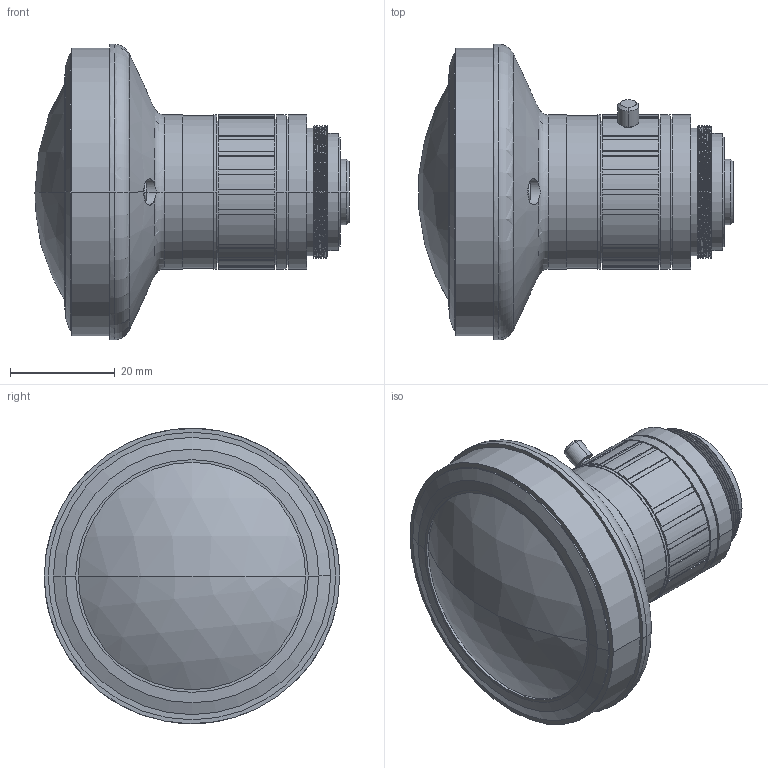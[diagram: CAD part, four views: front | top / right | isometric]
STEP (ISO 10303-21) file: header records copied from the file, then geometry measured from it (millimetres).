
FILE_DESCRIPTION (( 'STEP AP214' ), '1' );
FILE_NAME ('FE185C057HA-1_outline.STEP', '2020-11-25T06:18:29', ( '' ), ( '' ), 'SwSTEP 2.0', 'SolidWorks 2019', '' );
FILE_SCHEMA (( 'AUTOMOTIVE_DESIGN' ));
Length unit declared in the file: millimetre
Products named in the file (2): FE185C057HA-1; FE185C057HA-1_outline
Assembly tree (1 placements, depth 2):
  FE185C057HA-1_outline
    FE185C057HA-1
Bounding box: 60.11 x 56.5 x 56.5 mm (x, y, z)
Volume: 62902 mm3; surface area: 11527.9 mm2
Topology: 1 solids, 1 shells, 282 faces, 726 edges, 473 vertices
Faces by surface type: cylinder 121, plane 119, bspline 14, cone 12, torus 12, sphere 4
Entity records: 13060 total; most frequent: CARTESIAN_POINT 6045, ORIENTED_EDGE 1452, DIRECTION 1434, EDGE_CURVE 726, AXIS2_PLACEMENT_3D 514, VERTEX_POINT 473, VECTOR 406, LINE 406
